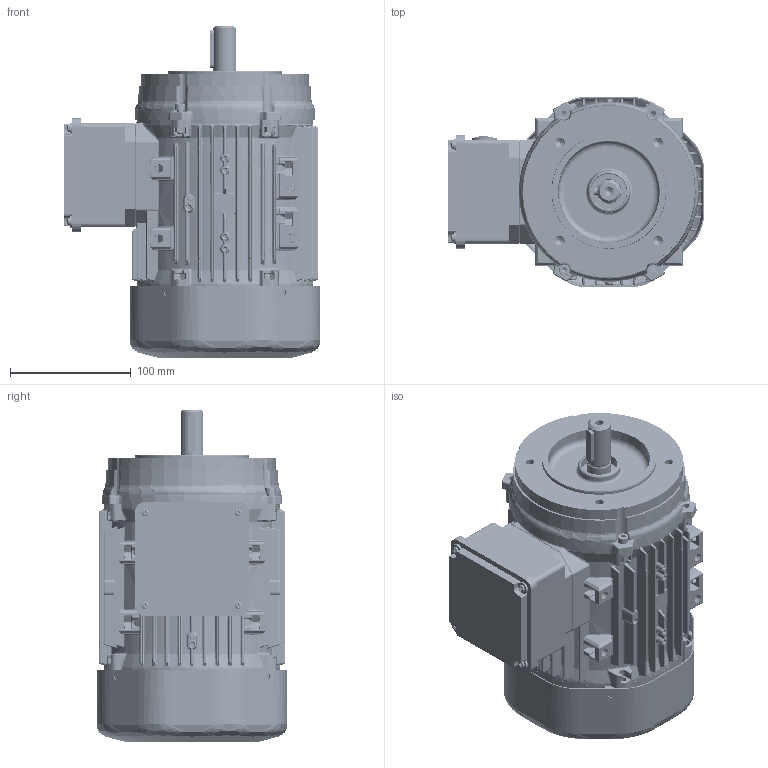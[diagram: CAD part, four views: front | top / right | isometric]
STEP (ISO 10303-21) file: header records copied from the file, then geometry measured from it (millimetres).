
FILE_DESCRIPTION(/* description */ (''),/* implementation_level */ '2;1');
FILE_NAME(/* name */ 'OUTLOOK VIEW QH80 FC B14 - BIGGER FT115 SPL.stp',/* time_stamp */ '2021-09-21T12:26:25+03:00',/* author */ (''),/* organization */ (''),/* preprocessor_version */ 'ST-DEVELOPER v16',/* originating_system */ 'SIEMENS PLM Software NX 11.0',/* authorisation */ '');
FILE_SCHEMA (('AUTOMOTIVE_DESIGN { 1 0 10303 214 3 1 1 1 }'));
Products named in the file (1): 260652D491E0rw4b
Bounding box: 212.5 x 158 x 275 mm (x, y, z)
Volume: 2492394.2 mm3; surface area: 996527.9 mm2
Topology: 46 solids, 50 shells, 10865 faces, 26392 edges, 15079 vertices
Faces by surface type: bspline 3538, cylinder 2959, plane 2175, sphere 805, torus 712, cone 658, extrusion 18
Full cylindrical faces by diameter (mm): 0.1 x2, 3.3 x5, 3.5 x4, 3.985 x3, 4 x4, 4.2 x1, 4.22 x3, 4.5 x4, 5 x5, 5.5 x4, 6 x1, 6.4 x1, 6.6 x1, 6.8 x4, 8 x1, 8.5 x1, 18.38 x2, 18.4 x1, 19 x3, 19.4 x2, 20 x6, 20.2 x2, 20.5 x1, 25 x2, 28.8 x8, 30 x3, 38.45 x4, 40.59 x8, 47 x6, 47.05 x1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
Entity records: 435068 total; most frequent: CARTESIAN_POINT 162679, ORIENTED_EDGE 50294, DIRECTION 44886, EDGE_CURVE 25147, AXIS2_PLACEMENT_3D 18822, VERTEX_POINT 14888, EDGE_LOOP 11835, ADVANCED_FACE 10861
